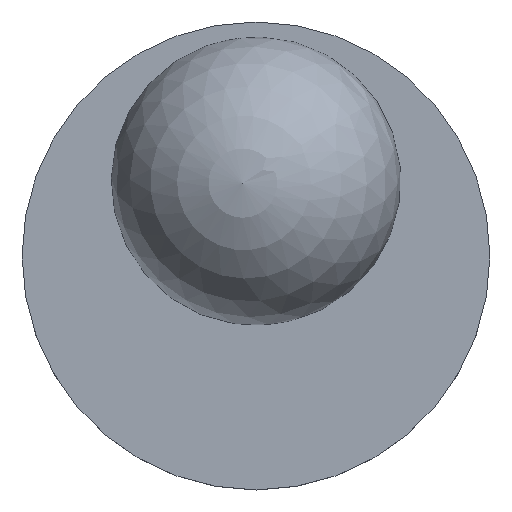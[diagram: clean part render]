
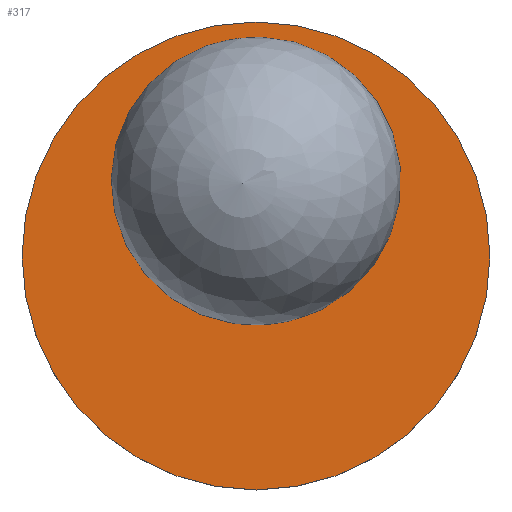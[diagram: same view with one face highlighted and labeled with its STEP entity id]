
A CAD part, top view. The second image highlights one B-rep face of the part: STEP entity #317.
In plain terms, the highlighted planar face has unit normal (0, 0, 1).
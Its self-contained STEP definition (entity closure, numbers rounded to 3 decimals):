
#41=FACE_BOUND('',#69,.T.);
#47=FACE_OUTER_BOUND('',#68,.T.);
#68=EDGE_LOOP('',(#203));
#69=EDGE_LOOP('',(#204,#205));
#95=CIRCLE('',#361,121.125);
#96=CIRCLE('',#362,41.261);
#97=CIRCLE('',#363,41.261);
#130=VERTEX_POINT('',#539);
#131=VERTEX_POINT('',#541);
#132=VERTEX_POINT('',#542);
#161=EDGE_CURVE('',#130,#130,#95,.T.);
#162=EDGE_CURVE('',#131,#132,#96,.T.);
#163=EDGE_CURVE('',#132,#131,#97,.T.);
#203=ORIENTED_EDGE('',*,*,#161,.T.);
#204=ORIENTED_EDGE('',*,*,#162,.T.);
#205=ORIENTED_EDGE('',*,*,#163,.T.);
#287=PLANE('',#360);
#317=ADVANCED_FACE('',(#47,#41),#287,.T.);
#360=AXIS2_PLACEMENT_3D('',#538,#418,#419);
#361=AXIS2_PLACEMENT_3D('',#540,#420,#421);
#362=AXIS2_PLACEMENT_3D('',#543,#422,#423);
#363=AXIS2_PLACEMENT_3D('',#544,#424,#425);
#418=DIRECTION('center_axis',(0.,0.,1.));
#419=DIRECTION('ref_axis',(1.,0.,0.));
#420=DIRECTION('center_axis',(0.,0.,1.));
#421=DIRECTION('ref_axis',(-1.,0.,0.));
#422=DIRECTION('center_axis',(0.,0.,-1.));
#423=DIRECTION('ref_axis',(0.,1.,0.));
#424=DIRECTION('center_axis',(0.,0.,-1.));
#425=DIRECTION('ref_axis',(0.,1.,0.));
#538=CARTESIAN_POINT('Origin',(0.,0.,
15.));
#539=CARTESIAN_POINT('',(121.125,0.,15.));
#540=CARTESIAN_POINT('Origin',(0.,0.,15.));
#541=CARTESIAN_POINT('',(0.,-2.636,15.));
#542=CARTESIAN_POINT('',(35.758,59.213,15.));
#543=CARTESIAN_POINT('Origin',(0.,38.625,15.));
#544=CARTESIAN_POINT('Origin',(0.,38.625,15.));
